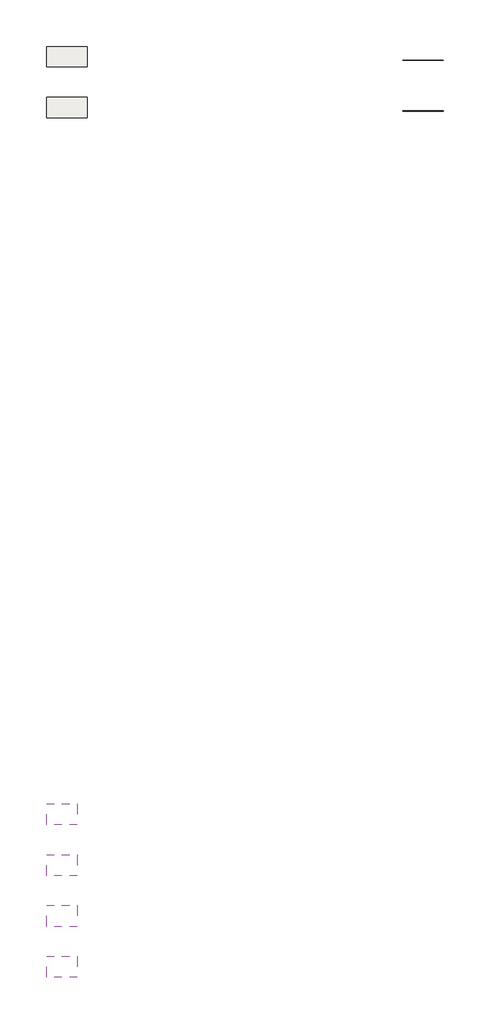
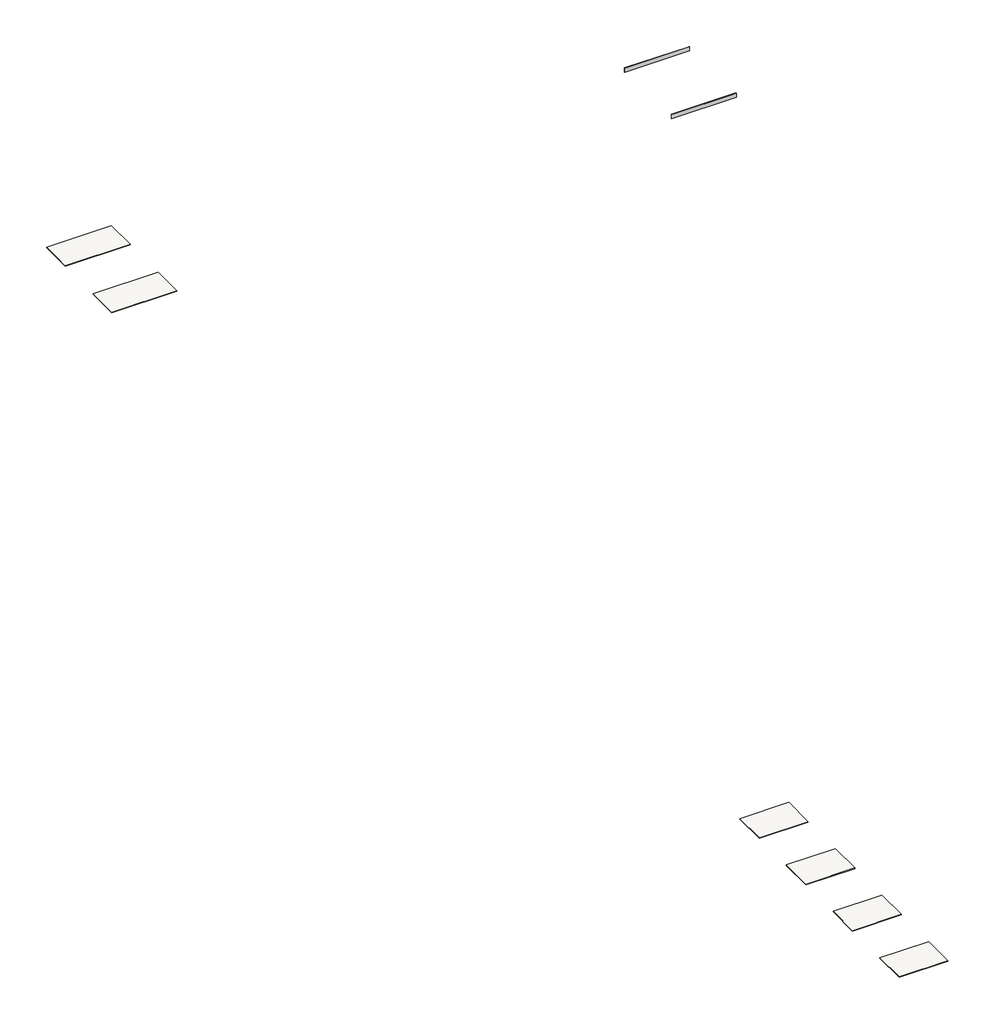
# One storey: 6 slabs, 2 proxies, 2 walls.
"""IFC4 building model written with IfcOpenShell, lengths in millimetres."""

from ifc_helpers import new_model, si_unit, frame, origin, place, context, project, spatial, polyline, outline, extrude, element, save

model = new_model("IFC4")

# Units and contexts
model_context = context("Model", 3, world=origin())
ifc_project = project(units=[si_unit("LENGTHUNIT", "METRE", prefix="MILLI")], contexts=[model_context])

# Site, building, storey
site = spatial("IfcSite", under=ifc_project)
building = spatial("IfcBuilding", under=site)
storey = spatial("IfcBuildingStorey", under=building, Name="apariencia TEXTIL", Elevation=21000.0)

# Proxies
placement = place(None, origin())
element("IfcBuildingElementProxy", 1, Name="Cesantoni_Bangladesh _8x120_RO_Arena_Mate", ObjectType="Cesantoni_Bangladesh _8x120_RO_Arena_Mate", at=placement, inside=storey, context=model_context, shape_type="SweptSolid", body=[
    extrude(outline(polyline([(9269.8218898, 374.781227), (9269.8218898, 385.781227), (10469.8218898, 385.781227), (10469.8218898, 374.781227), (9269.8218898, 374.781227)])), frame((0.0, 0.0, 21000.0), z_axis=(0.0, 0.0, 1.0), x_axis=(1.0, 0.0, 0.0)), (0.0, 0.0, 1.0), 80.0),
])
element("IfcBuildingElementProxy", 2, Name="Cesantoni_Bangladesh _8x120_RO_Camel_Mate", ObjectType="Cesantoni_Bangladesh _8x120_RO_Camel_Mate", at=placement, inside=storey, context=model_context, shape_type="SweptSolid", body=[
    extrude(outline(polyline([(9269.8218898, -1125.218773), (9269.8218898, -1114.218773), (10469.8218898, -1114.218773), (10469.8218898, -1125.218773), (9269.8218898, -1125.218773)])), frame((0.0, 0.0, 21000.0), z_axis=(0.0, 0.0, 1.0), x_axis=(1.0, 0.0, 0.0)), (0.0, 0.0, 1.0), 80.0),
])

# Slabs
element("IfcSlab", 3, ObjectType="Cesantoni_Bangladesh _60x120_RECT_Arena_Mate", at=placement, inside=storey, context=model_context, shape_type="SweptSolid", body=[
    extrude(outline(polyline([(-28.1781102, 784.4826442), (-28.1781102, 182.4826442), (-1230.1781102, 182.4826442), (-1230.1781102, 784.4826442), (-28.1781102, 784.4826442)])), frame((0.0, 0.0, 20989.0), z_axis=(0.0, 0.0, 1.0), x_axis=(1.0, 0.0, 0.0)), (0.0, 0.0, 1.0), 11.0),
])
element("IfcSlab", 4, ObjectType="Cesantoni_Bangladesh _60x120_RECT_Camel_Mate", at=placement, inside=storey, context=model_context, shape_type="SweptSolid", body=[
    extrude(outline(polyline([(-28.1781102, -715.5173558), (-28.1781102, -1317.5173558), (-1230.1781102, -1317.5173558), (-1230.1781102, -715.5173558), (-28.1781102, -715.5173558)])), frame((0.0, 0.0, 20989.0), z_axis=(0.0, 0.0, 1.0), x_axis=(1.0, 0.0, 0.0)), (0.0, 0.0, 1.0), 11.0),
])
element("IfcSlab", 5, ObjectType="Cesantoni_Cascata_30x6_Mist_Mate", at=placement, inside=storey, context=model_context, shape_type="SweptSolid", body=[
    extrude(outline(polyline([(-324.1781102, -21505.8828802), (-324.1781102, -22125.8828802), (-1230.1781102, -22125.8828802), (-1230.1781102, -21505.8828802), (-324.1781102, -21505.8828802)])), frame((0.0, 0.0, 23298.6407371), z_axis=(0.0, 0.0, 1.0), x_axis=(1.0, 0.0, 0.0)), (0.0, 0.0, 1.0), 11.0),
])
element("IfcSlab", 6, ObjectType="Cesantoni_Cascata_30x6_Snow_Mate", at=placement, inside=storey, context=model_context, shape_type="SweptSolid", body=[
    extrude(outline(polyline([(-324.1781102, -23005.8828802), (-324.1781102, -23625.8828802), (-1230.1781102, -23625.8828802), (-1230.1781102, -23005.8828802), (-324.1781102, -23005.8828802)])), frame((0.0, 0.0, 23298.6407371), z_axis=(0.0, 0.0, 1.0), x_axis=(1.0, 0.0, 0.0)), (0.0, 0.0, 1.0), 11.0),
])
element("IfcSlab", 7, ObjectType="Cesantoni_Cascata_30x6_Smoke_Mate", at=placement, inside=storey, context=model_context, shape_type="SweptSolid", body=[
    extrude(outline(polyline([(-324.1781102, -24505.8828802), (-324.1781102, -25125.8828802), (-1230.1781102, -25125.8828802), (-1230.1781102, -24505.8828802), (-324.1781102, -24505.8828802)])), frame((0.0, 0.0, 23298.6407371), z_axis=(0.0, 0.0, 1.0), x_axis=(1.0, 0.0, 0.0)), (0.0, 0.0, 1.0), 11.0),
])
element("IfcSlab", 8, ObjectType="Cesantoni_Cascata_30x6_Sand_Mate", at=placement, inside=storey, context=model_context, shape_type="SweptSolid", body=[
    extrude(outline(polyline([(-324.1781102, -26005.8828802), (-324.1781102, -26625.8828802), (-1230.1781102, -26625.8828802), (-1230.1781102, -26005.8828802), (-324.1781102, -26005.8828802)])), frame((0.0, 0.0, 23298.6407371), z_axis=(0.0, 0.0, 1.0), x_axis=(1.0, 0.0, 0.0)), (0.0, 0.0, 1.0), 11.0),
])

# Walls
element("IfcWall", 9, ObjectType="Muro básico:muro", at=placement, inside=storey, context=model_context, shape_type="SweptSolid", body=[
    extrude(outline(polyline([(10469.8218898, 385.781227), (9269.8218898, 385.781227), (9269.8218898, 386.781227), (10469.8218898, 386.781227), (10469.8218898, 385.781227)])), frame((0.0, 0.0, 21000.0), z_axis=(0.0, 0.0, 1.0), x_axis=(1.0, 0.0, 0.0)), (0.0, 0.0, 1.0), 40.0),
])
element("IfcWall", 10, ObjectType="Muro básico:muro", at=placement, inside=storey, context=model_context, shape_type="SweptSolid", body=[
    extrude(outline(polyline([(10469.8218898, -1114.218773), (9269.8218898, -1114.218773), (9269.8218898, -1113.218773), (10469.8218898, -1113.218773), (10469.8218898, -1114.218773)])), frame((0.0, 0.0, 21000.0), z_axis=(0.0, 0.0, 1.0), x_axis=(1.0, 0.0, 0.0)), (0.0, 0.0, 1.0), 40.0),
])

save(model, "model.ifc")
